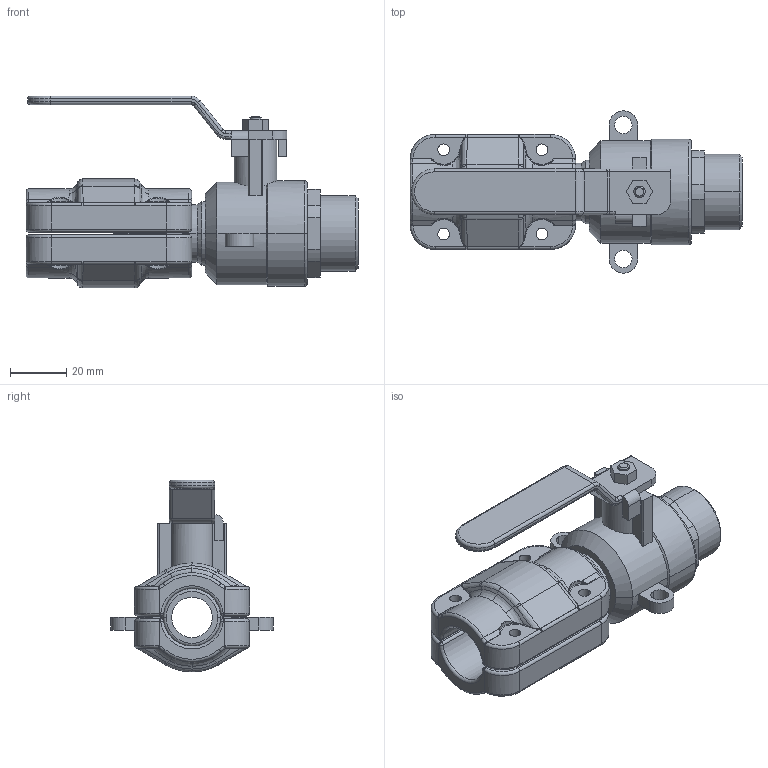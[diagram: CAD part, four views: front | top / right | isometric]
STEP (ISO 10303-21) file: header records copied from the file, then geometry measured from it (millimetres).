
FILE_DESCRIPTION((''),'2;1');
FILE_NAME('AU15135199_ASM','2017-05-13T',('li'),(''),'PRO/ENGINEER BY PARAMETRIC TECHNOLOGY CORPORATION, 2009360','PRO/ENGINEER BY PARAMETRIC TECHNOLOGY CORPORATION, 2009360','');
FILE_SCHEMA(('AUTOMOTIVE_DESIGN { 1 0 10303 214 1 1 1 1 }'));
Length unit declared in the file: millimetre
Products named in the file (5): AU15135100; 201510020000_38; 201510020001_10; 2015100200_ASM; AU15135199_ASM
Assembly tree (4 placements, depth 3):
  AU15135199_ASM
    AU15135100
    2015100200_ASM
      201510020000_38
      201510020001_10
Bounding box: 118.28 x 57.85 x 68.33 mm (x, y, z)
Volume: 78147.1 mm3; surface area: 39215 mm2
Topology: 3 solids, 9 shells, 519 faces, 1238 edges, 745 vertices
Faces by surface type: cylinder 175, bspline 136, plane 95, torus 74, cone 31, sphere 8
Entity records: 24015 total; most frequent: CARTESIAN_POINT 8845, ORIENTED_EDGE 2476, DIRECTION 2123, PRESENTATION_STYLE_ASSIGNMENT 1241, STYLED_ITEM 1241, CURVE_STYLE 1238, EDGE_CURVE 1238, AXIS2_PLACEMENT_3D 868
